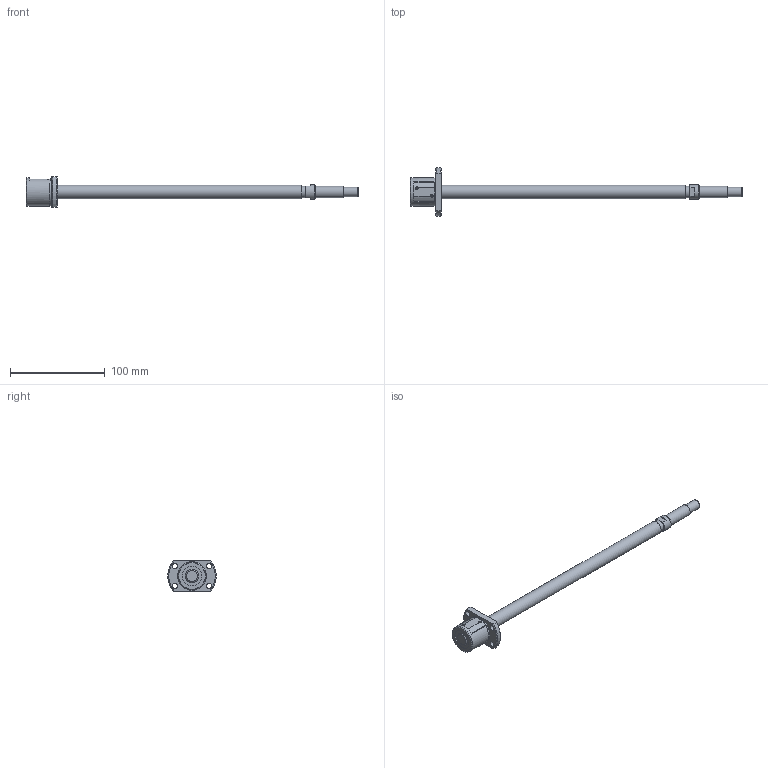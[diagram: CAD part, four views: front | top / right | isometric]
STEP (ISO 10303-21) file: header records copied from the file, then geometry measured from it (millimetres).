
FILE_DESCRIPTION( ( 'STEP AP203' ), '1' );
FILE_NAME( 'e:/temp/worker_83/temp/exporttempdir_4668_1850_DyeR5/format_0/SG1404-290R350C3A1X(0).stp', '2021-10-19T02:31:53', ( 'License CC BY-ND 4.0' ), ( 'CADENAS' ), ' ', 'PARTsolutions', ' ' );
FILE_SCHEMA( ( 'CONFIG_CONTROL_DESIGN' ) );
Length unit declared in the file: millimetre
Products named in the file (3): SG1404-290R350C3A1X(0); _SG1404-290R350C3A_shaft; _SG1404_nut
Assembly tree (2 placements, depth 2):
  SG1404-290R350C3A1X(0)
    _SG1404-290R350C3A_shaft
    _SG1404_nut
Bounding box: 350 x 51 x 32 mm (x, y, z)
Volume: 72969.2 mm3; surface area: 23197 mm2
Topology: 2 solids, 2 shells, 78 faces, 190 edges, 124 vertices
Faces by surface type: plane 38, cylinder 26, cone 13, torus 1
Full cylindrical faces by diameter (mm): 5.5 x4, 10 x1, 12 x1, 12.16 x1, 14 x2, 15 x1, 21 x2, 29.6 x1, 30 x1
Entity records: 2270 total; most frequent: CARTESIAN_POINT 433, DIRECTION 376, ORIENTED_EDGE 312, AXIS2_PLACEMENT_3D 157, EDGE_CURVE 156, EDGE_LOOP 120, VERTEX_POINT 114, FACE_OUTER_BOUND 93
